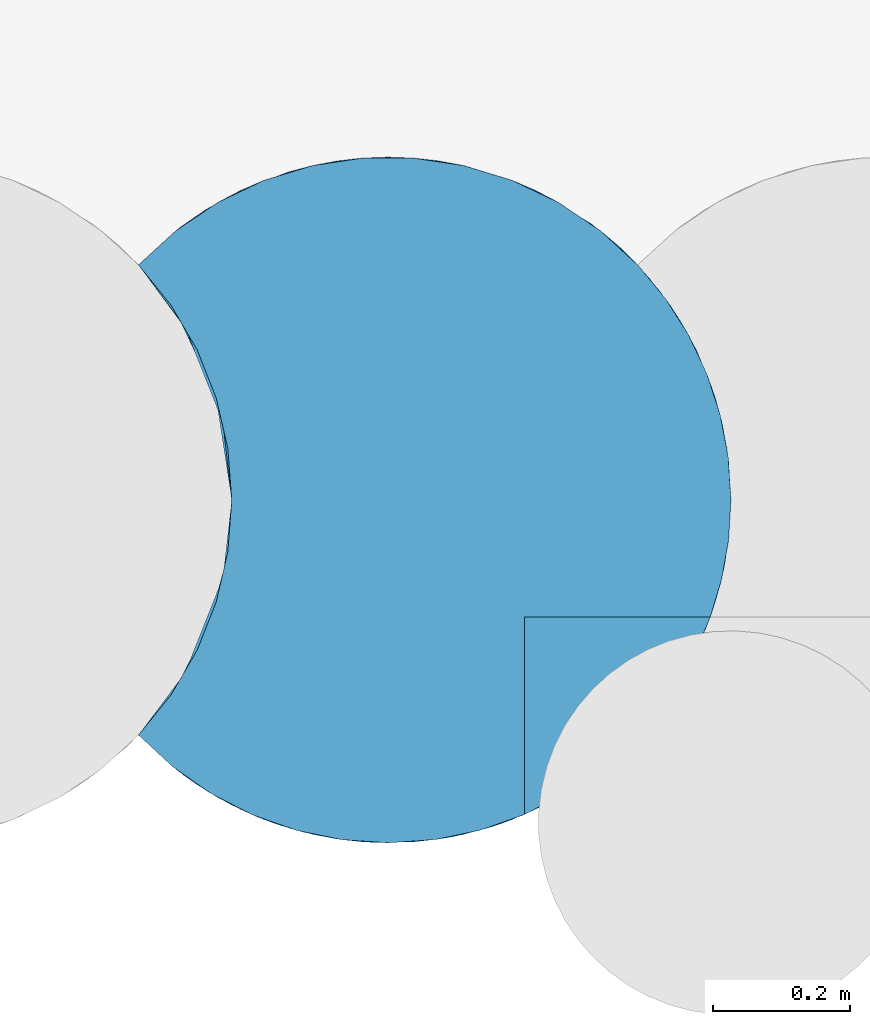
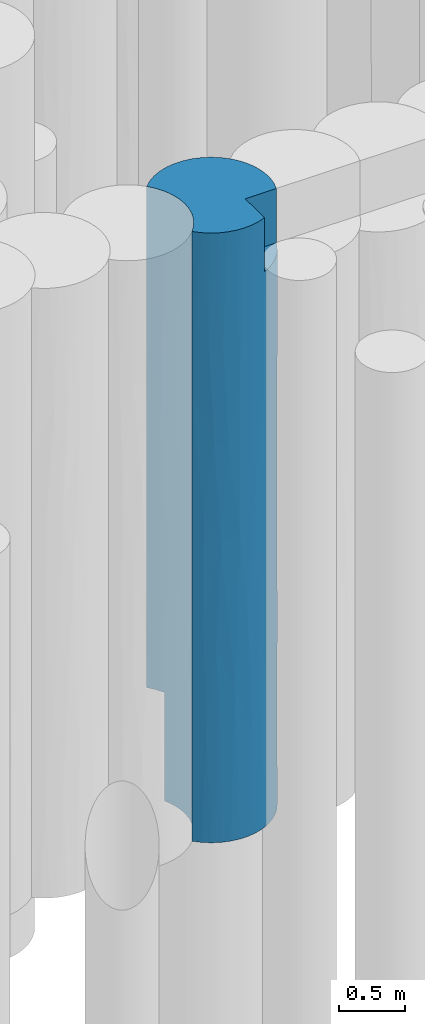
# One storey, part 39 of 104: 1 pile.
"""IFC2X3 building model written with IfcOpenShell, lengths in millimetres."""

from ifc_helpers import new_model, entity, si_unit, converted_unit, derived_unit, direction, frame, origin, place, context, subcontext, project, spatial, faceted_brep, source, transform, mapped, material, element, save


model = new_model("IFC2X3")

# Units and contexts
model_context = context("Model", 3, precision=0.01, world=origin(), true_north=direction((6.12303176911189e-17, 1.0)))
body_context = subcontext(model_context, "Body", "Model", "MODEL_VIEW")
ifc_project = project(units=[si_unit("LENGTHUNIT", "METRE", prefix="MILLI"), si_unit("AREAUNIT", "SQUARE_METRE", prefix="MILLI"), si_unit("VOLUMEUNIT", "CUBIC_METRE"), converted_unit("PLANEANGLEUNIT", "DEGREE", entity("IfcRatioMeasure", 0.0174532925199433), si_unit("PLANEANGLEUNIT", "RADIAN"), dimensions=[0, 0, 0, 0, 0, 0, 0]), si_unit("MASSUNIT", "GRAM", prefix="KILO"), derived_unit("MASSDENSITYUNIT", [(si_unit("MASSUNIT", "GRAM", prefix="KILO"), 1), (si_unit("LENGTHUNIT", "METRE"), -3)]), derived_unit("MOMENTOFINERTIAUNIT", [(si_unit("LENGTHUNIT", "METRE"), 4)]), si_unit("TIMEUNIT", "SECOND"), si_unit("FREQUENCYUNIT", "HERTZ"), si_unit("THERMODYNAMICTEMPERATUREUNIT", "DEGREE_CELSIUS"), derived_unit("THERMALTRANSMITTANCEUNIT", [(si_unit("MASSUNIT", "GRAM", prefix="KILO"), 1), (si_unit("THERMODYNAMICTEMPERATUREUNIT", "KELVIN"), -1), (si_unit("TIMEUNIT", "SECOND"), -3)]), derived_unit("VOLUMETRICFLOWRATEUNIT", [(si_unit("LENGTHUNIT", "METRE"), 3), (si_unit("TIMEUNIT", "SECOND"), -1)]), si_unit("ELECTRICCURRENTUNIT", "AMPERE"), si_unit("ELECTRICVOLTAGEUNIT", "VOLT"), si_unit("POWERUNIT", "WATT"), si_unit("FORCEUNIT", "NEWTON", prefix="KILO"), si_unit("ILLUMINANCEUNIT", "LUX"), si_unit("LUMINOUSFLUXUNIT", "LUMEN"), si_unit("LUMINOUSINTENSITYUNIT", "CANDELA"), derived_unit("USERDEFINED", [(si_unit("MASSUNIT", "GRAM", prefix="KILO"), -1), (si_unit("LENGTHUNIT", "METRE"), -2), (si_unit("TIMEUNIT", "SECOND"), 3), (si_unit("LUMINOUSFLUXUNIT", "LUMEN"), 1)]), derived_unit("LINEARVELOCITYUNIT", [(si_unit("LENGTHUNIT", "METRE"), 1), (si_unit("TIMEUNIT", "SECOND"), -1)]), si_unit("PRESSUREUNIT", "PASCAL"), derived_unit("USERDEFINED", [(si_unit("LENGTHUNIT", "METRE"), -2), (si_unit("MASSUNIT", "GRAM", prefix="KILO"), 1), (si_unit("TIMEUNIT", "SECOND"), -2)]), derived_unit("LINEARFORCEUNIT", [(si_unit("MASSUNIT", "GRAM", prefix="KILO"), 1), (si_unit("LENGTHUNIT", "METRE"), 1), (si_unit("TIMEUNIT", "SECOND"), -2), (si_unit("LENGTHUNIT", "METRE"), -1)]), derived_unit("PLANARFORCEUNIT", [(si_unit("MASSUNIT", "GRAM", prefix="KILO"), 1), (si_unit("LENGTHUNIT", "METRE"), 1), (si_unit("TIMEUNIT", "SECOND"), -2), (si_unit("LENGTHUNIT", "METRE"), -2)])], contexts=[model_context])

# Site, building, storey
site_placement = place(None, origin())
site = spatial("IfcSite", under=ifc_project, at=site_placement, Name="Theater aan de Parade", CompositionType="ELEMENT")
building_placement = place(site_placement, origin())
building = spatial("IfcBuilding", under=site, at=building_placement, Name="Theater aan de Parade", CompositionType="ELEMENT")
storey_placement = place(building_placement, frame((0.0, 0.0, -5520.0)))
storey = spatial("IfcBuildingStorey", under=building, at=storey_placement, Name="-2 kelder", CompositionType="ELEMENT", Elevation=-5520.0)

# Pile
ifc_material = material(Name="00_PBT_MAT_grout")
shared_shape = source(origin(), body_context, "Body", "Brep", [
    faceted_brep([(852.778565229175, 614.077865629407, 0.0), (862.377155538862, 558.231898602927, 0.0), (865.595272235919, 501.594804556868, 0.0), (861.634305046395, 438.783357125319, 0.0), (849.822713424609, 377.00032153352, 0.0), (830.347523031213, 317.189421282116, 0.0), (803.517959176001, 260.298886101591, 0.0), (769.755868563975, 207.223929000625, 0.0), (729.594749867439, 158.806177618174, 0.0), (674.963193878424, 108.795251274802, 0.0), (613.550146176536, 67.4077705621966, 0.0), (546.698111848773, 35.5457068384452, 0.0), (475.873547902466, 13.9077102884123, 0.0), (402.629961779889, 2.96825916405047, 0.0), (328.57387588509, 2.96727201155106, 0.0), (255.329632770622, 13.9048530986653, 0.0), (184.50381007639, 35.5412858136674, 0.0), (117.650023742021, 67.4022738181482, 0.0), (56.234857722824, 108.789338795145, 0.0), (1.59527223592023, 158.806239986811, 0.0), (49.040477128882, 217.494745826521, 0.0), (87.1123213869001, 282.655492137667, 0.0), (114.943469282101, 352.804015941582, 0.0), (131.899884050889, 426.34222494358, 0.0), (137.59527223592, 501.594804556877, 0.0), (134.377353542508, 558.230161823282, 0.0), (124.780071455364, 614.071341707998, 0.0), (108.920050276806, 668.486846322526, 0.0), (86.9917285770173, 720.781540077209, 0.0), (814.991728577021, 720.781540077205, 0.0), (836.917925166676, 668.492847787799, 0.0), (854.020876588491, 608.554745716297, 1094.02741643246), (814.991728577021, 720.781540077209, 1000.0), (841.026602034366, 656.401298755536, 4762.58295011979), (803.517959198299, 742.890722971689, 5620.0), (830.347522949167, 686.000188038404, 5620.0), (865.595272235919, 501.594804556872, 2810.0), (865.595272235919, 501.594804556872, 1561.53772500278), (851.888657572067, 617.864935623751, 2185.76883482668), (703.21017069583, 870.398519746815, 2200.60581933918), (746.362503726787, 825.657013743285, 3310.00690634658), (803.401066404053, 743.102747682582, 2328.06655431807), (841.026601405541, 656.401300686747, 3857.7126423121), (865.595272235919, 501.594804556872, 4215.0), (865.595272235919, 501.594804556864, 4058.46229407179), (476.571159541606, 989.123626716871, 4283.64346164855), (580.714838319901, 952.952281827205, 4088.45269383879), (439.453512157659, 996.109678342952, 3309.99801466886), (1.5952722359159, 844.383369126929, 5620.0), (56.2348580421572, 894.400270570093, 5620.0), (63.7853417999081, 900.230936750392, 4676.61157762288), (674.970941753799, 894.388255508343, 1000.0), (729.595272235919, 844.383369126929, 1000.0), (769.755868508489, 795.965680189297, 5620.0), (787.472388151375, 769.959666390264, 4395.38615293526), (328.567290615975, 1000.22184812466, 1000.0), (291.740779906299, 996.110238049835, 2360.44460435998), (439.453512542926, 996.109678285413, 2129.89388414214), (580.720158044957, 952.94974637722, 2525.4490579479), (613.556610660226, 935.77814676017, 1000.0), (729.584965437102, 844.394313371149, 5620.0), (861.634305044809, 564.406252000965, 5620.0), (150.473767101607, 952.951357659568, 2319.63983707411), (117.637172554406, 935.779996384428, 1000.0), (65.2017430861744, 901.299355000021, 1974.73221121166), (841.063509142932, 656.287906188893, 2981.48445914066), (865.595272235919, 501.594804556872, 5620.0), (849.822713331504, 626.189287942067, 5620.0), (790.702617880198, 764.812859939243, 1000.0), (762.16743818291, 806.1116631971, 1000.0), (100.386739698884, 925.463220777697, 3418.67983370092), (1.59527223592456, 844.383369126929, 2561.54104465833), (1.5952722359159, 844.383369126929, 4123.08208931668), (806.389759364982, 737.603745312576, 3307.45861235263), (699.528820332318, 873.735081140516, 4401.38648641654), (546.70215830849, 967.642329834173, 1000.0), (475.874328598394, 989.281722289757, 1000.0), (56.2225002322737, 894.39053765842, 1000.0), (674.963193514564, 894.394358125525, 5620.0), (328.123378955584, 1000.18868459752, 3417.58259392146), (402.627039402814, 1000.22156699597, 1000.0), (613.550145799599, 935.781838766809, 5620.0), (184.491893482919, 967.643692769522, 1000.0), (255.319907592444, 989.282557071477, 1000.0), (219.515588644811, 979.779628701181, 3586.41160869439), (256.001465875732, 989.43616976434, 4554.82452433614), (1.59527223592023, 844.383369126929, 1000.0), (150.486217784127, 952.957291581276, 4517.65925043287), (661.854395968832, 904.373318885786, 3156.01166058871), (117.650024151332, 935.787335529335, 5620.0), (365.601936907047, 1001.59480451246, 4389.69419363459), (546.698111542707, 967.643902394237, 5620.0), (402.629961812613, 1000.22134994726, 5620.0), (475.873547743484, 989.281898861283, 5620.0), (328.573876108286, 1000.22233711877, 5620.0), (184.50381050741, 967.648323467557, 5620.0), (255.329633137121, 989.284756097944, 5620.0), (865.595272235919, 501.594804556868, 1405.0), (332.27642755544, 2.70618513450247, 2818.59403694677), (242.330999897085, 17.0270392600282, 3621.13599788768), (183.209265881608, 36.0463702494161, 2773.77598169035), (298.427967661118, 6.12679025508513, 5620.0), (199.363599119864, 30.0367160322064, 4575.60939816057), (332.276427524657, 2.70618513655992, 4236.74543514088), (86.1751177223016, 86.9571588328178, 999.314488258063), (798.758322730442, 251.855397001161, 1826.15091528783), (817.828225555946, 288.321843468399, 943.620321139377), (841.026602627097, 346.78831217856, 1743.33666614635), (729.595272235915, 158.806239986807, 5120.0), (653.062062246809, 92.4947622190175, 4100.71556952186), (746.549134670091, 177.752011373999, 3850.65818041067), (291.748976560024, 7.07814698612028, 1384.62488938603), (173.986982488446, 39.7655468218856, 915.455094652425), (150.486217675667, 50.2323175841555, 1805.96686011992), (685.606555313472, 117.416748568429, 3174.41468930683), (595.273697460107, 57.4688978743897, 3235.06848679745), (637.056814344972, 81.7035910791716, 2298.57191126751), (511.686987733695, 23.4136561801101, 1706.20648438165), (645.023985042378, 86.9629263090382, 1265.8690279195), (750.432965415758, 182.377089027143, 1264.25511286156), (746.549134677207, 177.752011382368, 2559.9936947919), (530.637267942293, 29.6190216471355, 855.690494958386), (167.679416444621, 42.43327086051, 5620.0), (107.200211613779, 73.5387420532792, 5620.0), (100.852428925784, 77.4353688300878, 4615.03135712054), (439.454566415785, 7.08008823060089, 955.061250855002), (1.5952722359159, 158.806239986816, 2496.94629383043), (1.5952722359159, 158.806239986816, 1561.55083819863), (66.6525944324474, 100.803992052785, 2029.23114645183), (434.116514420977, 6.31221918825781, 5620.0), (366.279142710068, 1.5952722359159, 5620.0), (450.073241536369, 8.7830020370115, 4509.73359982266), (136.910334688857, 56.9565253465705, 3682.62672893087), (231.817475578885, 19.8235921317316, 5620.0), (466.708126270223, 11.9253336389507, 3072.64800827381), (560.433209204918, 41.1187700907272, 4144.83570153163), (1.5952722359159, 158.80623998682, 4058.4731469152), (51.4993425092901, 112.565567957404, 5620.0), (1.5952722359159, 158.80623998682, 5620.0), (855.190395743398, 400.122566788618, 2510.75440410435), (857.727502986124, 413.243984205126, 3422.46545812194), (826.220189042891, 307.109108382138, 3467.08733918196), (852.146979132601, 386.410445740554, 5620.0), (835.513167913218, 330.781540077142, 5120.0), (842.145009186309, 350.266194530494, 4250.28024725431), (69.9076213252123, 98.3965740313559, 3014.3118407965), (500.685958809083, 20.1900825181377, 5620.0), (564.737142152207, 42.9636721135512, 5120.0), (564.737142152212, 42.9636721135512, 5620.0), (762.518039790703, 197.535079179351, 5120.0), (804.098058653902, 261.354703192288, 4244.01044504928), (791.328284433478, 239.389918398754, 5120.0), (624.760270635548, 74.0044590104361, 5120.0), (850.711585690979, 380.507388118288, 901.167374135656), (401.133652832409, 2.85938020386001, 1960.71931688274), (825.273634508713, 304.882315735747, 2556.2368110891), (680.049690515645, 112.855278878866, 5120.0), (815.735585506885, 283.939806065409, 5120.0), (835.513167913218, 330.781540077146, 5620.0), (862.218512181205, 443.58310275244, 5620.0), (49.040477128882, 785.694863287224, 5620.0), (87.1123213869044, 720.534116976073, 5620.0), (114.943469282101, 650.385593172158, 5620.0), (131.899884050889, 576.84738417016, 5620.0), (137.59527223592, 501.594804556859, 5620.0), (131.899884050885, 426.342224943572, 5620.0), (114.943469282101, 352.804015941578, 5620.0), (87.1123213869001, 282.655492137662, 5620.0), (49.040477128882, 217.494745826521, 5620.0), (564.737142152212, 330.78154007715, 5620.0), (137.59527223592, 501.594804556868, 1561.53772533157), (137.59527223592, 501.594804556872, 2810.0), (118.129955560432, 639.74840791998, 2185.76884068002), (124.811099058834, 613.936862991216, 4657.58649590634), (137.59527223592, 501.594804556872, 4215.0), (125.97381170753, 608.769438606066, 1095.37767137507), (69.307538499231, 753.833816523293, 4657.58649237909), (102.353272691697, 685.985696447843, 3905.98762480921), (57.7018130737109, 772.722992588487, 3773.13755671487), (86.9917285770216, 720.781540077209, 1000.0), (129.799943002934, 589.541163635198, 3749.95709791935), (48.9622639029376, 785.808101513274, 1000.0), (114.521440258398, 651.732841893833, 3074.47446079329), (73.2384738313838, 746.982255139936, 2499.01518659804), (137.59527223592, 501.594804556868, 3123.07541190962), (137.59527223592, 501.594804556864, 4058.46229404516), (124.81109945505, 389.252747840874, 4607.4702237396), (69.3075392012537, 249.355793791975, 4607.47022365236), (56.4533644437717, 228.541881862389, 2029.23114695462), (102.353273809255, 317.203915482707, 1827.3166412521), (124.811099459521, 389.252747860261, 1012.52977635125), (69.3075392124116, 249.355793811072, 1012.52977643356), (129.722802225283, 413.21780400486, 3590.76885293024), (102.35327379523, 317.203915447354, 3792.68335898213), (128.169789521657, 404.968498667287, 2509.81800557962), (60.9783062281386, 235.612086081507, 3110.18199494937), (103.558997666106, 320.272421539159, 2894.95173457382), (564.737142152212, 330.78154007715, 5120.0)], [[[0, 1, 2, 3, 4, 5, 6, 7, 8, 9, 10, 11, 12, 13, 14, 15, 16, 17, 18, 19, 20, 21, 22, 23, 24, 25, 26, 27, 28, 29, 30]], [[31, 30, 32]], [[33, 34, 35]], [[36, 37, 38]], [[39, 40, 41]], [[41, 38, 32]], [[42, 33, 43, 44, 36]], [[45, 46, 47]], [[48, 49, 50]], [[51, 39, 52]], [[53, 34, 54]], [[55, 56, 57]], [[58, 39, 59]], [[47, 46, 58]], [[30, 29, 32]], [[38, 37, 31]], [[53, 54, 60]], [[43, 33, 61]], [[62, 63, 64]], [[65, 36, 38]], [[43, 61, 66]], [[2, 1, 31]], [[67, 33, 35]], [[1, 0, 31]], [[33, 54, 34]], [[68, 69, 41]], [[52, 39, 69]], [[69, 39, 41]], [[70, 71, 72]], [[73, 54, 42]], [[54, 74, 60]], [[75, 76, 57]], [[68, 41, 32]], [[64, 63, 77]], [[74, 78, 60]], [[79, 57, 56]], [[57, 76, 80]], [[40, 73, 41]], [[58, 75, 57]], [[74, 81, 78]], [[82, 62, 83]], [[54, 40, 74]], [[56, 83, 62]], [[79, 84, 85]], [[62, 82, 63]], [[38, 31, 32]], [[62, 84, 56]], [[86, 71, 64]], [[87, 84, 70]], [[39, 88, 40]], [[56, 55, 83]], [[89, 87, 50]], [[88, 39, 58]], [[90, 45, 47]], [[81, 46, 91]], [[46, 45, 91]], [[57, 80, 55]], [[84, 87, 85]], [[92, 93, 45]], [[79, 90, 47]], [[70, 84, 62]], [[92, 90, 94]], [[95, 87, 89]], [[85, 94, 90]], [[54, 33, 42]], [[33, 67, 61]], [[85, 90, 79]], [[89, 50, 49]], [[96, 85, 95]], [[58, 57, 47]], [[70, 62, 64]], [[59, 75, 58]], [[50, 70, 72]], [[59, 39, 51]], [[41, 73, 65]], [[88, 74, 40]], [[81, 74, 46]], [[95, 85, 87]], [[94, 85, 96]], [[31, 37, 97, 2]], [[31, 0, 30]], [[58, 46, 88]], [[74, 88, 46]], [[92, 45, 90]], [[91, 45, 93]], [[57, 79, 47]], [[56, 84, 79]], [[54, 73, 40]], [[65, 73, 42]], [[36, 65, 42]], [[41, 65, 38]], [[86, 64, 77]], [[70, 64, 71]], [[70, 50, 87]], [[48, 50, 72]], [[98, 99, 100]], [[101, 102, 103]], [[104, 18, 17]], [[105, 106, 107]], [[108, 109, 110]], [[111, 15, 14]], [[104, 112, 113]], [[114, 109, 115]], [[116, 117, 118]], [[116, 119, 120]], [[11, 121, 12]], [[16, 112, 17]], [[10, 118, 121]], [[122, 123, 124]], [[118, 9, 119]], [[121, 117, 125]], [[126, 127, 128]], [[129, 130, 131]], [[104, 19, 18]], [[99, 102, 132]], [[132, 102, 124]], [[122, 102, 133]], [[121, 125, 12]], [[131, 134, 135]], [[136, 137, 138]], [[103, 102, 99]], [[139, 140, 141]], [[122, 124, 102]], [[101, 103, 130]], [[131, 130, 103]], [[142, 143, 144]], [[126, 128, 145]], [[131, 146, 129]], [[15, 111, 112]], [[147, 148, 146]], [[2, 97, 3]], [[104, 17, 112]], [[7, 106, 119]], [[8, 119, 9]], [[139, 97, 37, 36]], [[9, 118, 10]], [[149, 150, 151]], [[152, 135, 109]], [[114, 110, 109]], [[4, 153, 5]], [[100, 111, 98]], [[97, 153, 3]], [[154, 134, 98]], [[105, 155, 120]], [[14, 13, 125]], [[120, 114, 116]], [[107, 106, 153]], [[5, 153, 106]], [[7, 6, 106]], [[145, 136, 126]], [[149, 110, 150]], [[109, 108, 156]], [[152, 147, 135]], [[149, 108, 110]], [[109, 156, 152]], [[13, 12, 125]], [[151, 150, 157]], [[144, 150, 141]], [[105, 119, 106]], [[136, 124, 137]], [[158, 143, 142]], [[157, 144, 143]], [[144, 140, 44]], [[125, 154, 111]], [[117, 134, 154]], [[8, 7, 119]], [[141, 110, 120]], [[150, 144, 157]], [[5, 106, 6]], [[101, 133, 102]], [[159, 142, 144]], [[110, 141, 150]], [[159, 44, 43, 66]], [[128, 104, 113]], [[19, 104, 127]], [[154, 125, 117]], [[14, 125, 111]], [[134, 117, 115]], [[111, 154, 98]], [[135, 115, 109]], [[103, 98, 134]], [[104, 128, 127]], [[100, 145, 128]], [[100, 128, 113]], [[136, 145, 132]], [[140, 144, 141]], [[159, 144, 44]], [[141, 155, 139]], [[44, 140, 36]], [[155, 105, 107]], [[120, 119, 105]], [[100, 99, 132]], [[98, 103, 99]], [[145, 100, 132]], [[100, 113, 111]], [[155, 107, 139]], [[120, 155, 141]], [[97, 139, 107]], [[36, 140, 139]], [[116, 114, 115]], [[110, 114, 120]], [[117, 116, 115]], [[116, 118, 119]], [[137, 124, 123]], [[136, 132, 124]], [[146, 131, 147]], [[134, 115, 135]], [[3, 153, 4]], [[97, 107, 153]], [[15, 112, 16]], [[111, 113, 112]], [[10, 121, 11]], [[118, 117, 121]], [[134, 131, 103]], [[131, 135, 147]], [[91, 93, 92, 94, 96, 95, 89, 49, 48, 160, 161, 162, 163, 164, 165, 166, 167, 168, 138, 137, 123, 122, 133, 101, 130, 129, 146, 148, 169, 158, 142, 159, 66, 61, 67, 35, 34, 53, 60, 78, 81]], [[170, 171, 172]], [[173, 162, 161]], [[164, 173, 174]], [[24, 175, 25]], [[72, 176, 48]], [[175, 26, 25]], [[175, 27, 26]], [[163, 162, 173]], [[173, 176, 177]], [[176, 72, 178]], [[175, 179, 27]], [[180, 173, 177]], [[71, 86, 181]], [[177, 182, 180]], [[48, 176, 160]], [[170, 172, 175]], [[160, 176, 161]], [[183, 71, 181]], [[174, 173, 180]], [[177, 176, 178]], [[161, 176, 173]], [[183, 182, 178]], [[183, 181, 179]], [[28, 27, 179]], [[180, 171, 184, 185, 174]], [[163, 173, 164]], [[172, 171, 182]], [[180, 182, 171]], [[172, 182, 183]], [[172, 183, 179]], [[178, 72, 71]], [[177, 178, 182]], [[183, 178, 71]], [[179, 175, 172]], [[24, 170, 175]], [[166, 186, 187, 167]], [[186, 165, 164]], [[188, 127, 126]], [[189, 190, 191]], [[21, 20, 191]], [[167, 187, 168]], [[185, 184, 192]], [[24, 190, 170]], [[186, 164, 174, 185]], [[193, 187, 186]], [[170, 190, 194]], [[166, 165, 186]], [[194, 184, 171, 170]], [[21, 191, 190, 22]], [[22, 190, 23]], [[195, 188, 126]], [[136, 138, 187]], [[127, 191, 19]], [[23, 190, 24]], [[194, 192, 184]], [[126, 136, 195]], [[19, 191, 20]], [[168, 187, 138]], [[136, 187, 195]], [[189, 191, 188]], [[193, 186, 192]], [[127, 188, 191]], [[189, 196, 194]], [[189, 188, 196]], [[187, 193, 195]], [[185, 192, 186]], [[196, 195, 193]], [[193, 192, 196]], [[190, 189, 194]], [[188, 195, 196]], [[194, 196, 192]], [[83, 55, 80, 76, 75, 59, 51, 52, 69, 68, 32, 179, 181, 86, 77, 63, 82]], [[32, 29, 28, 179]], [[152, 156, 108, 149, 151, 157, 143, 197, 147]], [[143, 158, 169, 197]], [[147, 197, 169, 148]]]),
])
pile_placement = place(storey_placement, frame((37400.2628578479, 37979.2184599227, -3840.0)))
element("IfcPile", 1, at=pile_placement, inside=storey, material=ifc_material, Name="17_PBT_SFO_grondkering_rond:Ø1000 (grondkering)", ObjectType="17_PBT_SFO_grondkering_rond:Ø1000 (grondkering)", PredefinedType="NOTDEFINED", context=body_context, shape_type="MappedRepresentation", body=[
    mapped(shared_shape, transform((0.0, 0.0, 0.0), scale=1.0)),
])

save(model, "model.ifc")
